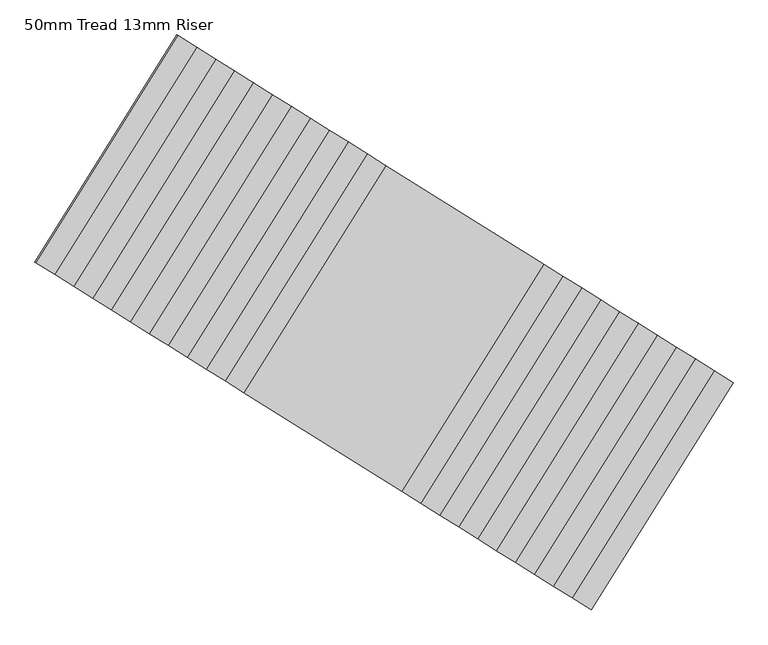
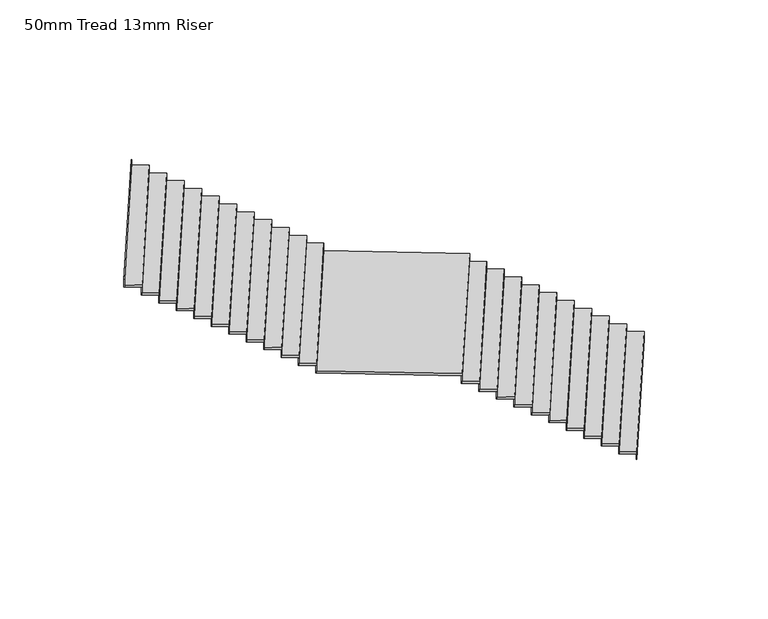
"""IFC4 building model written with IfcOpenShell, lengths in millimetres: stair flight geometry, 50mm Tread 13mm Riser."""

from ifc_helpers import new_model, si_unit, frame, origin, place, context, project, spatial, polyline, outline, extrude, source, transform, mapped, element, save


def stair_flight_50mm_tread_13mm_riser_8b8bcc91(model_context):
    return source(origin(), model_context, "Body", "SweptSolid", [
        extrude(outline(polyline([(43668.6795197, -31868.1709045), (43679.2801209, -31874.7948953), (41771.5707696, -34927.7680414), (41760.9701684, -34921.1440506), (43668.6795197, -31868.1709045)])), frame((0.0, 0.0, -3600.0), z_axis=(0.0, 0.0, 1.0), x_axis=(1.0, 0.0, 0.0)), (0.0, 0.0, 1.0), 106.5217391),
        extrude(outline(polyline([(41517.1563408, -34768.7922622), (43424.865692, -31715.819116), (43679.2801209, -31874.7948953), (41771.5707696, -34927.7680414), (41517.1563408, -34768.7922622)])), frame((0.0, 0.0, -3493.4782609), z_axis=(0.0, 0.0, 1.0), x_axis=(1.0, 0.0, 0.0)), (0.0, 0.0, 1.0), 50.0),
        extrude(outline(polyline([(43414.2650908, -31709.1951252), (43424.865692, -31715.819116), (41517.1563408, -34768.7922622), (41506.5557396, -34762.1682714), (43414.2650908, -31709.1951252)])), frame((0.0, 0.0, -3493.4782609), z_axis=(0.0, 0.0, 1.0), x_axis=(1.0, 0.0, 0.0)), (0.0, 0.0, 1.0), 156.5217391),
        extrude(outline(polyline([(41262.741912, -34609.8164829), (43170.4512632, -31556.8433367), (43424.865692, -31715.819116), (41517.1563408, -34768.7922622), (41262.741912, -34609.8164829)])), frame((0.0, 0.0, -3336.9565217), z_axis=(0.0, 0.0, 1.0), x_axis=(1.0, 0.0, 0.0)), (0.0, 0.0, 1.0), 50.0),
        extrude(outline(polyline([(43159.850662, -31550.2193459), (43170.4512632, -31556.8433367), (41262.741912, -34609.8164829), (41252.1413107, -34603.1924921), (43159.850662, -31550.2193459)])), frame((0.0, 0.0, -3336.9565217), z_axis=(0.0, 0.0, 1.0), x_axis=(1.0, 0.0, 0.0)), (0.0, 0.0, 1.0), 156.5217391),
        extrude(outline(polyline([(41008.3274831, -34450.8407036), (42916.0368343, -31397.8675575), (43170.4512632, -31556.8433367), (41262.741912, -34609.8164829), (41008.3274831, -34450.8407036)])), frame((0.0, 0.0, -3180.4347826), z_axis=(0.0, 0.0, 1.0), x_axis=(1.0, 0.0, 0.0)), (0.0, 0.0, 1.0), 50.0),
        extrude(outline(polyline([(42905.4362331, -31391.2435667), (42916.0368343, -31397.8675575), (41008.3274831, -34450.8407036), (40997.7268819, -34444.2167128), (42905.4362331, -31391.2435667)])), frame((0.0, 0.0, -3180.4347826), z_axis=(0.0, 0.0, 1.0), x_axis=(1.0, 0.0, 0.0)), (0.0, 0.0, 1.0), 156.5217391),
        extrude(outline(polyline([(40753.9130543, -34291.8649244), (42661.6224055, -31238.8917782), (42916.0368343, -31397.8675575), (41008.3274831, -34450.8407036), (40753.9130543, -34291.8649244)])), frame((0.0, 0.0, -3023.9130435), z_axis=(0.0, 0.0, 1.0), x_axis=(1.0, 0.0, 0.0)), (0.0, 0.0, 1.0), 50.0),
        extrude(outline(polyline([(42651.0218043, -31232.2677874), (42661.6224055, -31238.8917782), (40753.9130543, -34291.8649244), (40743.3124531, -34285.2409335), (42651.0218043, -31232.2677874)])), frame((0.0, 0.0, -3023.9130435), z_axis=(0.0, 0.0, 1.0), x_axis=(1.0, 0.0, 0.0)), (0.0, 0.0, 1.0), 156.5217391),
        extrude(outline(polyline([(40499.4986254, -34132.8891451), (42407.2079767, -31079.9159989), (42661.6224055, -31238.8917782), (40753.9130543, -34291.8649244), (40499.4986254, -34132.8891451)])), frame((0.0, 0.0, -2867.3913043), z_axis=(0.0, 0.0, 1.0), x_axis=(1.0, 0.0, 0.0)), (0.0, 0.0, 1.0), 50.0),
        extrude(outline(polyline([(42396.6073754, -31073.2920081), (42407.2079767, -31079.9159989), (40499.4986254, -34132.8891451), (40488.8980242, -34126.2651543), (42396.6073754, -31073.2920081)])), frame((0.0, 0.0, -2867.3913043), z_axis=(0.0, 0.0, 1.0), x_axis=(1.0, 0.0, 0.0)), (0.0, 0.0, 1.0), 156.5217391),
        extrude(outline(polyline([(40245.0841966, -33973.9133658), (42152.7935478, -30920.9402196), (42407.2079767, -31079.9159989), (40499.4986254, -34132.8891451), (40245.0841966, -33973.9133658)])), frame((0.0, 0.0, -2710.8695652), z_axis=(0.0, 0.0, 1.0), x_axis=(1.0, 0.0, 0.0)), (0.0, 0.0, 1.0), 50.0),
        extrude(outline(polyline([(42142.1929466, -30914.3162288), (42152.7935478, -30920.9402196), (40245.0841966, -33973.9133658), (40234.4835954, -33967.289375), (42142.1929466, -30914.3162288)])), frame((0.0, 0.0, -2710.8695652), z_axis=(0.0, 0.0, 1.0), x_axis=(1.0, 0.0, 0.0)), (0.0, 0.0, 1.0), 156.5217391),
        extrude(outline(polyline([(39990.6697677, -33814.9375865), (41898.379119, -30761.9644404), (42152.7935478, -30920.9402196), (40245.0841966, -33973.9133658), (39990.6697677, -33814.9375865)])), frame((0.0, 0.0, -2554.3478261), z_axis=(0.0, 0.0, 1.0), x_axis=(1.0, 0.0, 0.0)), (0.0, 0.0, 1.0), 50.0),
        extrude(outline(polyline([(41887.7785178, -30755.3404496), (41898.379119, -30761.9644404), (39990.6697677, -33814.9375865), (39980.0691665, -33808.3135957), (41887.7785178, -30755.3404496)])), frame((0.0, 0.0, -2554.3478261), z_axis=(0.0, 0.0, 1.0), x_axis=(1.0, 0.0, 0.0)), (0.0, 0.0, 1.0), 156.5217391),
        extrude(outline(polyline([(39736.2553389, -33655.9618073), (41643.9646901, -30602.9886611), (41898.379119, -30761.9644404), (39990.6697677, -33814.9375865), (39736.2553389, -33655.9618073)])), frame((0.0, 0.0, -2397.826087), z_axis=(0.0, 0.0, 1.0), x_axis=(1.0, 0.0, 0.0)), (0.0, 0.0, 1.0), 50.0),
        extrude(outline(polyline([(41633.3640889, -30596.3646703), (41643.9646901, -30602.9886611), (39736.2553389, -33655.9618073), (39725.6547377, -33649.3378165), (41633.3640889, -30596.3646703)])), frame((0.0, 0.0, -2397.826087), z_axis=(0.0, 0.0, 1.0), x_axis=(1.0, 0.0, 0.0)), (0.0, 0.0, 1.0), 156.5217391),
        extrude(outline(polyline([(39481.84091, -33496.986028), (41389.5502613, -30444.0128818), (41643.9646901, -30602.9886611), (39736.2553389, -33655.9618073), (39481.84091, -33496.986028)])), frame((0.0, 0.0, -2241.3043478), z_axis=(0.0, 0.0, 1.0), x_axis=(1.0, 0.0, 0.0)), (0.0, 0.0, 1.0), 50.0),
        extrude(outline(polyline([(41378.9496601, -30437.388891), (41389.5502613, -30444.0128818), (39481.84091, -33496.986028), (39471.2403088, -33490.3620372), (41378.9496601, -30437.388891)])), frame((0.0, 0.0, -2241.3043478), z_axis=(0.0, 0.0, 1.0), x_axis=(1.0, 0.0, 0.0)), (0.0, 0.0, 1.0), 156.5217391),
        extrude(outline(polyline([(39227.4264812, -33338.0102487), (41135.1358324, -30285.0371026), (41389.5502613, -30444.0128818), (39481.84091, -33496.986028), (39227.4264812, -33338.0102487)])), frame((0.0, 0.0, -2084.7826087), z_axis=(0.0, 0.0, 1.0), x_axis=(1.0, 0.0, 0.0)), (0.0, 0.0, 1.0), 50.0),
        extrude(outline(polyline([(41124.5352312, -30278.4131118), (41135.1358324, -30285.0371026), (39227.4264812, -33338.0102487), (39216.82588, -33331.3862579), (41124.5352312, -30278.4131118)])), frame((0.0, 0.0, -2084.7826087), z_axis=(0.0, 0.0, 1.0), x_axis=(1.0, 0.0, 0.0)), (0.0, 0.0, 1.0), 156.5217391),
        extrude(outline(polyline([(37107.3062408, -32013.2120881), (39015.015592, -28960.238942), (41135.1358324, -30285.0371026), (39227.4264812, -33338.0102487), (37107.3062408, -32013.2120881)])), frame((0.0, 0.0, -1928.2608696), z_axis=(0.0, 0.0, 1.0), x_axis=(1.0, 0.0, 0.0)), (0.0, 0.0, 1.0), 50.0),
        extrude(outline(polyline([(39004.4149908, -28953.6149512), (39015.015592, -28960.238942), (37107.3062408, -32013.2120881), (37096.7056396, -32006.5880973), (39004.4149908, -28953.6149512)])), frame((0.0, 0.0, -1928.2608696), z_axis=(0.0, 0.0, 1.0), x_axis=(1.0, 0.0, 0.0)), (0.0, 0.0, 1.0), 156.5217391),
        extrude(outline(polyline([(36852.8918119, -31854.2363089), (38760.6011632, -28801.2631627), (39015.015592, -28960.238942), (37107.3062408, -32013.2120881), (36852.8918119, -31854.2363089)])), frame((0.0, 0.0, -1771.7391304), z_axis=(0.0, 0.0, 1.0), x_axis=(1.0, 0.0, 0.0)), (0.0, 0.0, 1.0), 50.0),
        extrude(outline(polyline([(38750.000562, -28794.6391719), (38760.6011632, -28801.2631627), (36852.8918119, -31854.2363089), (36842.2912107, -31847.6123181), (38750.000562, -28794.6391719)])), frame((0.0, 0.0, -1771.7391304), z_axis=(0.0, 0.0, 1.0), x_axis=(1.0, 0.0, 0.0)), (0.0, 0.0, 1.0), 156.5217391),
        extrude(outline(polyline([(36598.4773831, -31695.2605296), (38506.1867343, -28642.2873834), (38760.6011632, -28801.2631627), (36852.8918119, -31854.2363089), (36598.4773831, -31695.2605296)])), frame((0.0, 0.0, -1615.2173913), z_axis=(0.0, 0.0, 1.0), x_axis=(1.0, 0.0, 0.0)), (0.0, 0.0, 1.0), 50.0),
        extrude(outline(polyline([(38495.5861331, -28635.6633926), (38506.1867343, -28642.2873834), (36598.4773831, -31695.2605296), (36587.8767819, -31688.6365388), (38495.5861331, -28635.6633926)])), frame((0.0, 0.0, -1615.2173913), z_axis=(0.0, 0.0, 1.0), x_axis=(1.0, 0.0, 0.0)), (0.0, 0.0, 1.0), 156.5217391),
        extrude(outline(polyline([(36344.0629542, -31536.2847503), (38251.7723055, -28483.3116042), (38506.1867343, -28642.2873834), (36598.4773831, -31695.2605296), (36344.0629542, -31536.2847503)])), frame((0.0, 0.0, -1458.6956522), z_axis=(0.0, 0.0, 1.0), x_axis=(1.0, 0.0, 0.0)), (0.0, 0.0, 1.0), 50.0),
        extrude(outline(polyline([(38241.1717043, -28476.6876134), (38251.7723055, -28483.3116042), (36344.0629542, -31536.2847503), (36333.462353, -31529.6607595), (38241.1717043, -28476.6876134)])), frame((0.0, 0.0, -1458.6956522), z_axis=(0.0, 0.0, 1.0), x_axis=(1.0, 0.0, 0.0)), (0.0, 0.0, 1.0), 156.5217391),
        extrude(outline(polyline([(36089.6485254, -31377.3089711), (37997.3578766, -28324.3358249), (38251.7723055, -28483.3116042), (36344.0629542, -31536.2847503), (36089.6485254, -31377.3089711)])), frame((0.0, 0.0, -1302.173913), z_axis=(0.0, 0.0, 1.0), x_axis=(1.0, 0.0, 0.0)), (0.0, 0.0, 1.0), 50.0),
        extrude(outline(polyline([(37986.7572754, -28317.7118341), (37997.3578766, -28324.3358249), (36089.6485254, -31377.3089711), (36079.0479242, -31370.6849803), (37986.7572754, -28317.7118341)])), frame((0.0, 0.0, -1302.173913), z_axis=(0.0, 0.0, 1.0), x_axis=(1.0, 0.0, 0.0)), (0.0, 0.0, 1.0), 156.5217391),
        extrude(outline(polyline([(35835.2340966, -31218.3331918), (37742.9434478, -28165.3600456), (37997.3578766, -28324.3358249), (36089.6485254, -31377.3089711), (35835.2340966, -31218.3331918)])), frame((0.0, 0.0, -1145.6521739), z_axis=(0.0, 0.0, 1.0), x_axis=(1.0, 0.0, 0.0)), (0.0, 0.0, 1.0), 50.0),
        extrude(outline(polyline([(37732.3428466, -28158.7360548), (37742.9434478, -28165.3600456), (35835.2340966, -31218.3331918), (35824.6334953, -31211.709201), (37732.3428466, -28158.7360548)])), frame((0.0, 0.0, -1145.6521739), z_axis=(0.0, 0.0, 1.0), x_axis=(1.0, 0.0, 0.0)), (0.0, 0.0, 1.0), 156.5217391),
        extrude(outline(polyline([(35580.8196677, -31059.3574125), (37488.5290189, -28006.3842664), (37742.9434478, -28165.3600456), (35835.2340966, -31218.3331918), (35580.8196677, -31059.3574125)])), frame((0.0, 0.0, -989.1304348), z_axis=(0.0, 0.0, 1.0), x_axis=(1.0, 0.0, 0.0)), (0.0, 0.0, 1.0), 50.0),
        extrude(outline(polyline([(37477.9284177, -27999.7602756), (37488.5290189, -28006.3842664), (35580.8196677, -31059.3574125), (35570.2190665, -31052.7334217), (37477.9284177, -27999.7602756)])), frame((0.0, 0.0, -989.1304348), z_axis=(0.0, 0.0, 1.0), x_axis=(1.0, 0.0, 0.0)), (0.0, 0.0, 1.0), 156.5217391),
        extrude(outline(polyline([(35326.4052389, -30900.3816333), (37234.1145901, -27847.4084871), (37488.5290189, -28006.3842664), (35580.8196677, -31059.3574125), (35326.4052389, -30900.3816333)])), frame((0.0, 0.0, -832.6086957), z_axis=(0.0, 0.0, 1.0), x_axis=(1.0, 0.0, 0.0)), (0.0, 0.0, 1.0), 50.0),
        extrude(outline(polyline([(37223.5139889, -27840.7844963), (37234.1145901, -27847.4084871), (35326.4052389, -30900.3816333), (35315.8046377, -30893.7576425), (37223.5139889, -27840.7844963)])), frame((0.0, 0.0, -832.6086957), z_axis=(0.0, 0.0, 1.0), x_axis=(1.0, 0.0, 0.0)), (0.0, 0.0, 1.0), 156.5217391),
        extrude(outline(polyline([(35071.99081, -30741.405854), (36979.7001612, -27688.4327078), (37234.1145901, -27847.4084871), (35326.4052389, -30900.3816333), (35071.99081, -30741.405854)])), frame((0.0, 0.0, -676.0869565), z_axis=(0.0, 0.0, 1.0), x_axis=(1.0, 0.0, 0.0)), (0.0, 0.0, 1.0), 50.0),
        extrude(outline(polyline([(36969.09956, -27681.808717), (36979.7001612, -27688.4327078), (35071.99081, -30741.405854), (35061.3902088, -30734.7818632), (36969.09956, -27681.808717)])), frame((0.0, 0.0, -676.0869565), z_axis=(0.0, 0.0, 1.0), x_axis=(1.0, 0.0, 0.0)), (0.0, 0.0, 1.0), 156.5217391),
        extrude(outline(polyline([(34817.5763812, -30582.4300747), (36725.2857324, -27529.4569286), (36979.7001612, -27688.4327078), (35071.99081, -30741.405854), (34817.5763812, -30582.4300747)])), frame((0.0, 0.0, -519.5652174), z_axis=(0.0, 0.0, 1.0), x_axis=(1.0, 0.0, 0.0)), (0.0, 0.0, 1.0), 50.0),
        extrude(outline(polyline([(36714.6851312, -27522.8329378), (36725.2857324, -27529.4569286), (34817.5763812, -30582.4300747), (34806.97578, -30575.8060839), (36714.6851312, -27522.8329378)])), frame((0.0, 0.0, -519.5652174), z_axis=(0.0, 0.0, 1.0), x_axis=(1.0, 0.0, 0.0)), (0.0, 0.0, 1.0), 156.5217391),
        extrude(outline(polyline([(34563.1619523, -30423.4542955), (36470.8713036, -27370.4811493), (36725.2857324, -27529.4569286), (34817.5763812, -30582.4300747), (34563.1619523, -30423.4542955)])), frame((0.0, 0.0, -363.0434783), z_axis=(0.0, 0.0, 1.0), x_axis=(1.0, 0.0, 0.0)), (0.0, 0.0, 1.0), 50.0),
        extrude(outline(polyline([(36460.2707024, -27363.8571585), (36470.8713036, -27370.4811493), (34563.1619523, -30423.4542955), (34552.5613511, -30416.8303046), (36460.2707024, -27363.8571585)])), frame((0.0, 0.0, -363.0434783), z_axis=(0.0, 0.0, 1.0), x_axis=(1.0, 0.0, 0.0)), (0.0, 0.0, 1.0), 156.5217391),
        extrude(outline(polyline([(36205.8562735, -27204.8813792), (36216.4568747, -27211.50537), (34308.7475235, -30264.4785162), (34298.1469223, -30257.8545254), (36205.8562735, -27204.8813792)])), frame((0.0, 0.0, -206.5217391), z_axis=(0.0, 0.0, 1.0), x_axis=(1.0, 0.0, 0.0)), (0.0, 0.0, 1.0), 156.5217391),
        extrude(outline(polyline([(34308.7475235, -30264.4785162), (36216.4568747, -27211.50537), (36470.8713036, -27370.4811493), (34563.1619523, -30423.4542955), (34308.7475235, -30264.4785162)])), frame((0.0, 0.0, -206.5217391), z_axis=(0.0, 0.0, 1.0), x_axis=(1.0, 0.0, 0.0)), (0.0, 0.0, 1.0), 50.0),
    ])


if __name__ == "__main__":
    model = new_model("IFC4")
    model_context = context("Model", 3, world=origin())
    ifc_project = project(units=[si_unit("LENGTHUNIT", "METRE", prefix="MILLI")], contexts=[model_context])
    site = spatial("IfcSite", under=ifc_project)
    building = spatial("IfcBuilding", under=site)
    placement = place(None, origin())
    stair_flight_50mm_tread_13mm_riser_shape = stair_flight_50mm_tread_13mm_riser_8b8bcc91(model_context)
    element("IfcStairFlight", 1, ObjectType="50mm Tread 13mm Riser", at=placement, inside=building, context=model_context, shape_type="MappedRepresentation", body=[
        mapped(stair_flight_50mm_tread_13mm_riser_shape, transform((0.0, 0.0, 0.0), x_axis=(1.0, 0.0, 0.0), y_axis=(0.0, 1.0, 0.0), z_axis=(0.0, 0.0, 1.0))),
    ])
    save(model, "model.ifc")
